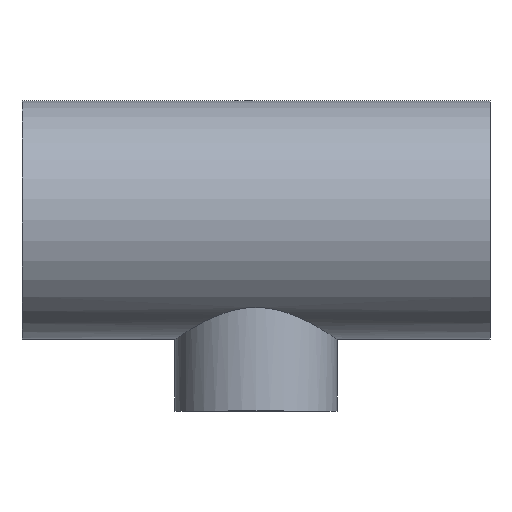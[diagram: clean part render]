
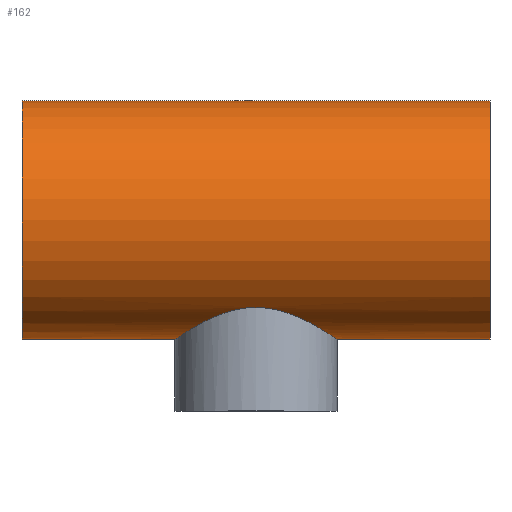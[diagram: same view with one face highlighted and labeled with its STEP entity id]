
A CAD part, top view. The second image highlights one B-rep face of the part: STEP entity #162.
In plain terms, the highlighted cylindrical face has radius 25 mm (diameter 50 mm), a full revolution.
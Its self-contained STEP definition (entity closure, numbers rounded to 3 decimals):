
#16=B_SPLINE_CURVE_WITH_KNOTS('',3,(#320,#321,#322,#323,#324,#325,#326,
#327,#328,#329,#330,#331,#332,#333,#334,#335,#336,#337,#338,#339,#340,#341,
#342,#343,#344,#345,#346,#347,#348,#349,#350,#351,#352,#353,#354,#355,#356,
#357,#358,#359,#360,#361,#362,#363,#364,#365,#366,#367,#368,#369,#370,#371,
#372,#373,#374,#375,#376,#377),.UNSPECIFIED.,.T.,.F.,(4,2,2,2,2,2,2,2,2,
2,2,2,2,2,2,2,2,2,2,2,2,2,2,2,2,2,2,2,4),(0.,0.336,0.673,
1.345,1.677,2.01,2.342,2.674,
3.006,3.338,3.67,4.003,4.675,
5.012,5.348,5.684,6.02,6.693,
7.025,7.357,7.69,8.022,8.354,
8.686,9.018,9.351,10.023,10.359,
10.696),.UNSPECIFIED.);
#32=FACE_BOUND('',#69,.T.);
#33=FACE_BOUND('',#70,.T.);
#46=FACE_OUTER_BOUND('',#68,.T.);
#68=EDGE_LOOP('',(#136));
#69=EDGE_LOOP('',(#137));
#70=EDGE_LOOP('',(#138));
#88=CIRCLE('',#187,25.);
#89=CIRCLE('',#188,25.);
#101=VERTEX_POINT('',#317);
#102=VERTEX_POINT('',#319);
#103=VERTEX_POINT('',#378);
#115=EDGE_CURVE('',#101,#101,#88,.T.);
#116=EDGE_CURVE('',#102,#102,#16,.T.);
#117=EDGE_CURVE('',#103,#103,#89,.T.);
#136=ORIENTED_EDGE('',*,*,#115,.F.);
#137=ORIENTED_EDGE('',*,*,#116,.T.);
#138=ORIENTED_EDGE('',*,*,#117,.F.);
#152=CYLINDRICAL_SURFACE('',#186,25.);
#162=ADVANCED_FACE('',(#46,#32,#33),#152,.T.);
#186=AXIS2_PLACEMENT_3D('',#316,#230,#231);
#187=AXIS2_PLACEMENT_3D('',#318,#232,#233);
#188=AXIS2_PLACEMENT_3D('',#379,#234,#235);
#230=DIRECTION('center_axis',(1.,0.,0.));
#231=DIRECTION('ref_axis',(0.,-1.,0.));
#232=DIRECTION('center_axis',(-1.,0.,0.));
#233=DIRECTION('ref_axis',(0.,-1.,0.));
#234=DIRECTION('center_axis',(1.,0.,0.));
#235=DIRECTION('ref_axis',(0.,-1.,0.));
#316=CARTESIAN_POINT('Origin',(0.,0.,0.));
#317=CARTESIAN_POINT('',(-49.,25.,0.));
#318=CARTESIAN_POINT('Origin',(-49.,0.,0.));
#319=CARTESIAN_POINT('',(0.,-18.33,17.));
#320=CARTESIAN_POINT('Ctrl Pts',(0.,-18.33,17.));
#321=CARTESIAN_POINT('Ctrl Pts',(1.121,-18.33,17.));
#322=CARTESIAN_POINT('Ctrl Pts',(2.258,-18.436,16.888));
#323=CARTESIAN_POINT('Ctrl Pts',(4.485,-18.839,16.437));
#324=CARTESIAN_POINT('Ctrl Pts',(5.576,-19.135,16.099));
#325=CARTESIAN_POINT('Ctrl Pts',(8.684,-20.189,14.787));
#326=CARTESIAN_POINT('Ctrl Pts',(10.543,-21.11,13.499));
#327=CARTESIAN_POINT('Ctrl Pts',(12.751,-22.321,11.291));
#328=CARTESIAN_POINT('Ctrl Pts',(13.444,-22.726,10.463));
#329=CARTESIAN_POINT('Ctrl Pts',(14.679,-23.478,8.646));
#330=CARTESIAN_POINT('Ctrl Pts',(15.221,-23.823,7.656));
#331=CARTESIAN_POINT('Ctrl Pts',(16.101,-24.396,5.57));
#332=CARTESIAN_POINT('Ctrl Pts',(16.441,-24.622,4.472));
#333=CARTESIAN_POINT('Ctrl Pts',(16.89,-24.925,2.241));
#334=CARTESIAN_POINT('Ctrl Pts',(17.,-25.,1.107));
#335=CARTESIAN_POINT('Ctrl Pts',(17.,-25.,-1.107));
#336=CARTESIAN_POINT('Ctrl Pts',(16.89,-24.925,-2.241));
#337=CARTESIAN_POINT('Ctrl Pts',(16.441,-24.622,-4.472));
#338=CARTESIAN_POINT('Ctrl Pts',(16.101,-24.396,-5.57));
#339=CARTESIAN_POINT('Ctrl Pts',(15.221,-23.823,-7.656));
#340=CARTESIAN_POINT('Ctrl Pts',(14.679,-23.478,-8.646));
#341=CARTESIAN_POINT('Ctrl Pts',(13.444,-22.726,-10.463));
#342=CARTESIAN_POINT('Ctrl Pts',(12.751,-22.321,-11.291));
#343=CARTESIAN_POINT('Ctrl Pts',(10.543,-21.11,-13.499));
#344=CARTESIAN_POINT('Ctrl Pts',(8.684,-20.189,-14.787));
#345=CARTESIAN_POINT('Ctrl Pts',(5.576,-19.135,-16.099));
#346=CARTESIAN_POINT('Ctrl Pts',(4.485,-18.839,-16.437));
#347=CARTESIAN_POINT('Ctrl Pts',(2.258,-18.436,-16.888));
#348=CARTESIAN_POINT('Ctrl Pts',(1.121,-18.33,-17.));
#349=CARTESIAN_POINT('Ctrl Pts',(-1.121,-18.33,-17.));
#350=CARTESIAN_POINT('Ctrl Pts',(-2.258,-18.436,-16.888));
#351=CARTESIAN_POINT('Ctrl Pts',(-4.485,-18.839,-16.437));
#352=CARTESIAN_POINT('Ctrl Pts',(-5.576,-19.135,-16.099));
#353=CARTESIAN_POINT('Ctrl Pts',(-8.684,-20.189,-14.787));
#354=CARTESIAN_POINT('Ctrl Pts',(-10.543,-21.11,-13.499));
#355=CARTESIAN_POINT('Ctrl Pts',(-12.751,-22.321,-11.291));
#356=CARTESIAN_POINT('Ctrl Pts',(-13.444,-22.726,-10.463));
#357=CARTESIAN_POINT('Ctrl Pts',(-14.679,-23.478,-8.646));
#358=CARTESIAN_POINT('Ctrl Pts',(-15.221,-23.823,-7.656));
#359=CARTESIAN_POINT('Ctrl Pts',(-16.101,-24.396,-5.57));
#360=CARTESIAN_POINT('Ctrl Pts',(-16.441,-24.622,-4.472));
#361=CARTESIAN_POINT('Ctrl Pts',(-16.89,-24.925,-2.241));
#362=CARTESIAN_POINT('Ctrl Pts',(-17.,-25.,-1.107));
#363=CARTESIAN_POINT('Ctrl Pts',(-17.,-25.,1.107));
#364=CARTESIAN_POINT('Ctrl Pts',(-16.89,-24.925,2.241));
#365=CARTESIAN_POINT('Ctrl Pts',(-16.441,-24.622,4.472));
#366=CARTESIAN_POINT('Ctrl Pts',(-16.101,-24.396,5.57));
#367=CARTESIAN_POINT('Ctrl Pts',(-15.221,-23.823,7.656));
#368=CARTESIAN_POINT('Ctrl Pts',(-14.679,-23.478,8.646));
#369=CARTESIAN_POINT('Ctrl Pts',(-13.444,-22.726,10.463));
#370=CARTESIAN_POINT('Ctrl Pts',(-12.751,-22.321,11.291));
#371=CARTESIAN_POINT('Ctrl Pts',(-10.543,-21.11,13.499));
#372=CARTESIAN_POINT('Ctrl Pts',(-8.684,-20.189,14.787));
#373=CARTESIAN_POINT('Ctrl Pts',(-5.576,-19.135,16.099));
#374=CARTESIAN_POINT('Ctrl Pts',(-4.485,-18.839,16.437));
#375=CARTESIAN_POINT('Ctrl Pts',(-2.258,-18.436,16.888));
#376=CARTESIAN_POINT('Ctrl Pts',(-1.121,-18.33,17.));
#377=CARTESIAN_POINT('Ctrl Pts',(0.,-18.33,
17.));
#378=CARTESIAN_POINT('',(49.,25.,0.));
#379=CARTESIAN_POINT('Origin',(49.,0.,0.));
